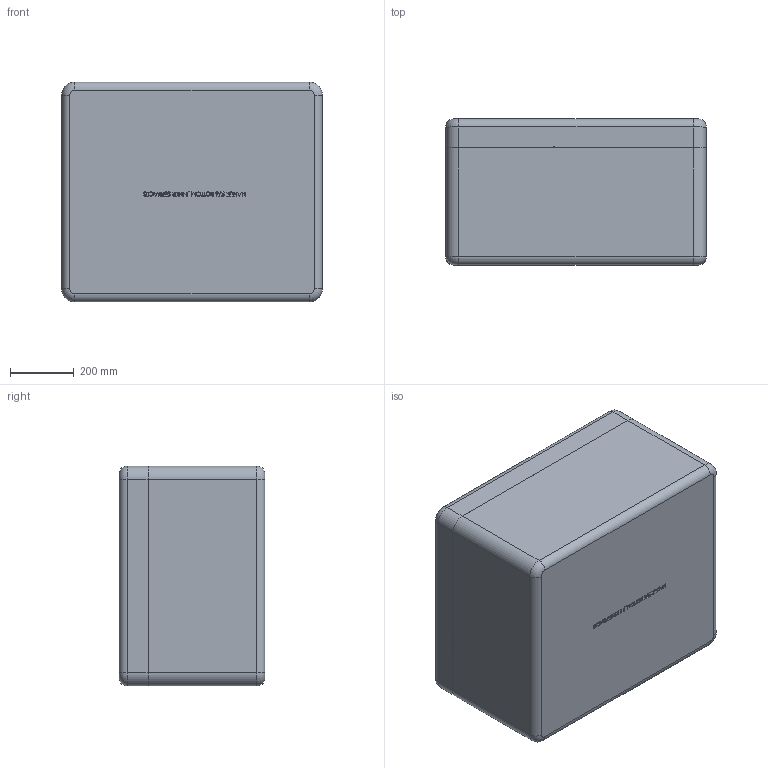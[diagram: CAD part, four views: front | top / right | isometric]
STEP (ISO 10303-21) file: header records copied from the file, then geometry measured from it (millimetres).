
FILE_DESCRIPTION (( 'STEP AP214' ), '1' );
FILE_NAME ('NANUK 976_INNER SURFACES_STEP.STEP', '2024-04-02T20:03:45', ( '' ), ( '' ), 'SwSTEP 2.0', 'SolidWorks 2022', '' );
FILE_SCHEMA (( 'AUTOMOTIVE_DESIGN' ));
Length unit declared in the file: millimetre
Products named in the file (3): NANUK 976 BOTTOM_Inner Surfaces; NANUK 976 TOP_Inner Surfaces; NANUK 976_INNER SURFACES_STEP
Assembly tree (2 placements, depth 2):
  NANUK 976_INNER SURFACES_STEP
    NANUK 976 BOTTOM_Inner Surfaces
    NANUK 976 TOP_Inner Surfaces
Bounding box: 816.55 x 457.2 x 689.59 mm (x, y, z)
Volume: 58614349.1 mm3; surface area: 4740353.8 mm2
Topology: 2 solids, 2 shells, 4837 faces, 11640 edges, 6756 vertices
Faces by surface type: bspline 2170, plane 1217, cylinder 1036, torus 166, cone 140, sphere 108
Full cylindrical faces by diameter (mm): 13.208 x1
Entity records: 234661 total; most frequent: CARTESIAN_POINT 140404, ORIENTED_EDGE 22592, DIRECTION 15309, EDGE_CURVE 11296, VERTEX_POINT 6742, AXIS2_PLACEMENT_3D 5661, EDGE_LOOP 5116, FACE_OUTER_BOUND 4864
